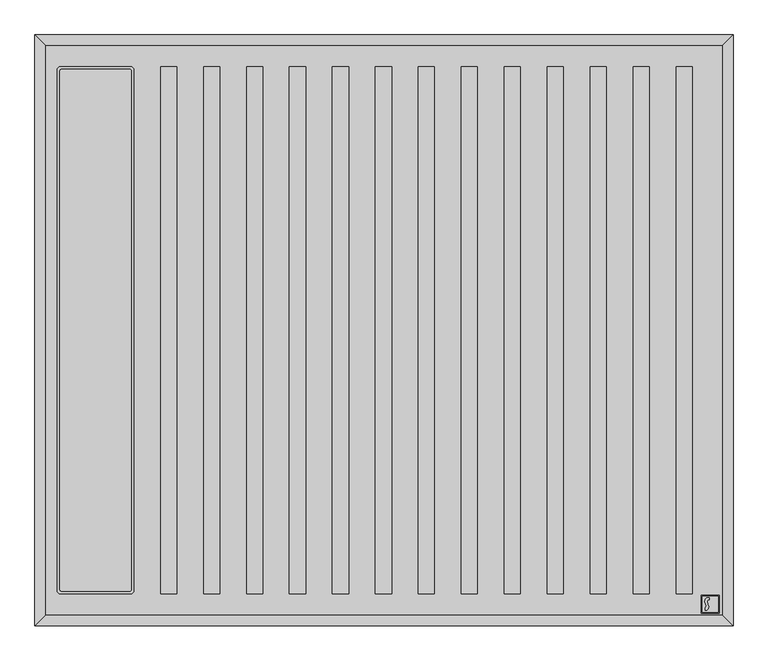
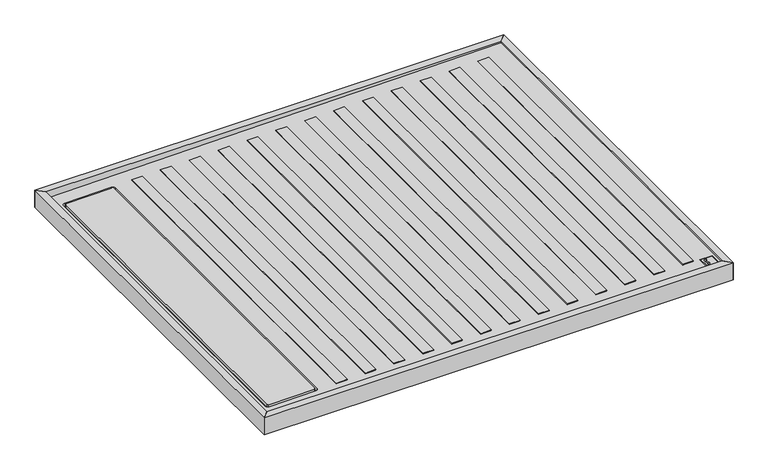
"""IFC4 building model written with IfcOpenShell, lengths in millimetres: flow terminal geometry, Sanitary_Shower-trays_Cosentino_Kador : Kador_130*125."""

from ifc_helpers import new_model, si_unit, point, frame, frame_2d, origin, origin_with_axes, place, context, project, spatial, polyline, circle_curve, ellipse_curve, trimmed, segment, composite_curve, outline, extrude, source, transform, mapped, element, save
from ifc_brep_helpers import plane_surface, cylinder_surface, revolved_surface, advanced_brep


def flow_terminal_b279ac32(model_context):
    return source(origin(), model_context, "Body", "SolidModel", [
        advanced_brep(
        [(-470.5, 482.5, 33.7436921), (-474.0, 486.0, 33.7018727), (-600.0, 486.0, 32.1963775), (-603.5, 482.5, 32.1545582), (-603.5, -482.5, 32.1545582), (-600.0, -486.0, 32.1963775), (-474.0, -486.0, 33.7018727), (-470.5, -482.5, 33.7436921), (-474.0, 486.0, 24.9415704), (-470.5, 482.5, 24.9415704), (-470.5, -482.5, 24.9415704), (-474.0, -486.0, 24.9415704), (-600.0, -486.0, 24.9415704), (-603.5, -482.5, 24.9415704), (-603.5, 482.5, 24.9415704), (-600.0, 486.0, 24.9415704)],
        [
            (0, 1, ellipse_curve(frame((-474.0, 482.5, 33.7018727), z_axis=(-0.011947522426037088, 0.0, 0.999928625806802), x_axis=(0.999928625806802, 0.0, 0.011947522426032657)), 3.5002498, 3.5)),
            (1, 2),
            (2, 3, ellipse_curve(frame((-600.0, 482.5, 32.1963775), z_axis=(-0.011947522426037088, 0.0, 0.999928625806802), x_axis=(0.999928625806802, 0.0, 0.011947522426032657)), 3.5002498, 3.5)),
            (3, 4),
            (4, 5, ellipse_curve(frame((-600.0, -482.5, 32.1963775), z_axis=(-0.011947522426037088, 0.0, 0.999928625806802), x_axis=(0.999928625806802, 0.0, 0.011947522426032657)), 3.5002498, 3.5)),
            (5, 6),
            (6, 7, ellipse_curve(frame((-474.0, -482.5, 33.7018727), z_axis=(-0.011947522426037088, 0.0, 0.999928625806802), x_axis=(0.999928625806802, 0.0, 0.011947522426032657)), 3.5002498, 3.5)),
            (7, 0),
            (8, 9, circle_curve(frame((-474.0, 482.5, 24.9415704), z_axis=(0.0, 0.0, -1.0), x_axis=(1.0, 0.0, 0.0)), 3.5)),
            (9, 10),
            (10, 11, circle_curve(frame((-474.0, -482.5, 24.9415704), z_axis=(0.0, 0.0, -1.0), x_axis=(1.0, 0.0, 0.0)), 3.5)),
            (11, 12),
            (12, 13, circle_curve(frame((-600.0, -482.5, 24.9415704), z_axis=(0.0, 0.0, -1.0), x_axis=(1.0, 0.0, 0.0)), 3.5)),
            (13, 14),
            (14, 15, circle_curve(frame((-600.0, 482.5, 24.9415704), z_axis=(0.0, 0.0, -1.0), x_axis=(1.0, 0.0, 0.0)), 3.5)),
            (15, 8),
            (9, 0),
            (7, 10),
            (11, 6),
            (5, 12),
            (13, 4),
            (3, 14),
            (15, 2),
            (1, 8),
        ],
        [
            plane_surface(frame((631.0, -531.0, 46.9048274), z_axis=(-0.011947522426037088, 0.0, 0.999928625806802), x_axis=(0.0, 1.0, 0.0))),
            plane_surface(frame((-470.5, 482.5, 24.9415704), z_axis=(0.0, 0.0, -1.0), x_axis=(0.0, 1.0, 0.0))),
            plane_surface(frame((-470.5, 482.5, 45.0), z_axis=(1.0, 0.0, 0.0), x_axis=(0.0, 0.0, -1.0))),
            plane_surface(frame((-474.0, -486.0, 45.0), z_axis=(0.0, -1.0, 0.0), x_axis=(0.0, 0.0, -1.0))),
            plane_surface(frame((-603.5, -482.5, 45.0), z_axis=(-1.0, 0.0, 0.0), x_axis=(0.0, 0.0, -1.0))),
            plane_surface(frame((-600.0, 486.0, 45.0), z_axis=(0.0, 1.0, 0.0), x_axis=(0.0, 0.0, -1.0))),
            cylinder_surface(frame((-474.0, 482.5, 24.9415704), z_axis=(0.0, 0.0, 1.0), x_axis=(1.0, 0.0, 0.0)), 3.5),
            cylinder_surface(frame((-474.0, -482.5, 24.9415704), z_axis=(0.0, 0.0, 1.0), x_axis=(1.0, 0.0, 0.0)), 3.5),
            cylinder_surface(frame((-600.0, -482.5, 24.9415704), z_axis=(0.0, 0.0, 1.0), x_axis=(1.0, 0.0, 0.0)), 3.5),
            cylinder_surface(frame((-600.0, 482.5, 24.9415704), z_axis=(0.0, 0.0, 1.0), x_axis=(1.0, 0.0, 0.0)), 3.5),
        ],
        [
            (0, [[1, 2, 3, 4, 5, 6, 7, 8]]),
            (1, [[9, 10, 11, 12, 13, 14, 15, 16]]),
            (2, [[17, -8, 18, -10]]),
            (3, [[19, -6, 20, -12]]),
            (4, [[21, -4, 22, -14]]),
            (5, [[23, -2, 24, -16]]),
            (6, [[-24, -1, -17, -9]]),
            (7, [[-18, -7, -19, -11]]),
            (8, [[-20, -5, -21, -13]]),
            (9, [[-22, -3, -23, -15]]),
        ],
    ),
        extrude(outline(polyline([(10.0, -416.0), (10.0, -386.0), (34.7533298, -386.0), (34.3948785, -416.0), (10.0, -416.0)])), frame((0.0, -491.0, 0.0), z_axis=(0.0, 1.0, 0.0), x_axis=(0.0, 0.0, 1.0)), (0.0, 0.0, 1.0), 982.0),
        extrude(outline(polyline([(10.0, -336.0), (10.0, -306.0), (35.7091998, -306.0), (35.3507485, -336.0), (10.0, -336.0)])), frame((0.0, -491.0, 0.0), z_axis=(0.0, 1.0, 0.0), x_axis=(0.0, 0.0, 1.0)), (0.0, 0.0, 1.0), 982.0),
        extrude(outline(polyline([(10.0, -256.0), (10.0, -226.0), (36.6650698, -226.0), (36.3066185, -256.0), (10.0, -256.0)])), frame((0.0, -491.0, 0.0), z_axis=(0.0, 1.0, 0.0), x_axis=(0.0, 0.0, 1.0)), (0.0, 0.0, 1.0), 982.0),
        extrude(outline(polyline([(10.0, -176.0), (10.0, -146.0), (37.6209398, -146.0), (37.2624886, -176.0), (10.0, -176.0)])), frame((0.0, -491.0, 0.0), z_axis=(0.0, 1.0, 0.0), x_axis=(0.0, 0.0, 1.0)), (0.0, 0.0, 1.0), 982.0),
        extrude(outline(polyline([(10.0, -96.0), (10.0, -66.0), (38.5768098, -66.0), (38.2183586, -96.0), (10.0, -96.0)])), frame((0.0, -491.0, 0.0), z_axis=(0.0, 1.0, 0.0), x_axis=(0.0, 0.0, 1.0)), (0.0, 0.0, 1.0), 982.0),
        extrude(outline(polyline([(10.0, -16.0), (10.0, 14.0), (39.5326799, 14.0), (39.1742286, -16.0), (10.0, -16.0)])), frame((0.0, -491.0, 0.0), z_axis=(0.0, 1.0, 0.0), x_axis=(0.0, 0.0, 1.0)), (0.0, 0.0, 1.0), 982.0),
        extrude(outline(polyline([(10.0, 64.0), (10.0, 94.0), (40.4885499, 94.0), (40.1300986, 64.0), (10.0, 64.0)])), frame((0.0, -491.0, 0.0), z_axis=(0.0, 1.0, 0.0), x_axis=(0.0, 0.0, 1.0)), (0.0, 0.0, 1.0), 982.0),
        extrude(outline(polyline([(10.0, 144.0), (10.0, 174.0), (41.4444199, 174.0), (41.0859686, 144.0), (10.0, 144.0)])), frame((0.0, -491.0, 0.0), z_axis=(0.0, 1.0, 0.0), x_axis=(0.0, 0.0, 1.0)), (0.0, 0.0, 1.0), 982.0),
        extrude(outline(polyline([(10.0, 224.0), (10.0, 254.0), (42.4002899, 254.0), (42.0418387, 224.0), (10.0, 224.0)])), frame((0.0, -491.0, 0.0), z_axis=(0.0, 1.0, 0.0), x_axis=(0.0, 0.0, 1.0)), (0.0, 0.0, 1.0), 982.0),
        extrude(outline(polyline([(10.0, 304.0), (10.0, 334.0), (43.3561599, 334.0), (42.9977087, 304.0), (10.0, 304.0)])), frame((0.0, -491.0, 0.0), z_axis=(0.0, 1.0, 0.0), x_axis=(0.0, 0.0, 1.0)), (0.0, 0.0, 1.0), 982.0),
        extrude(outline(polyline([(10.0, 384.0), (10.0, 414.0), (44.31203, 414.0), (43.9535787, 384.0), (10.0, 384.0)])), frame((0.0, -491.0, 0.0), z_axis=(0.0, 1.0, 0.0), x_axis=(0.0, 0.0, 1.0)), (0.0, 0.0, 1.0), 982.0),
        extrude(outline(polyline([(10.0, 464.0), (10.0, 494.0), (45.2679, 494.0), (44.9094487, 464.0), (10.0, 464.0)])), frame((0.0, -491.0, 0.0), z_axis=(0.0, 1.0, 0.0), x_axis=(0.0, 0.0, 1.0)), (0.0, 0.0, 1.0), 982.0),
        extrude(outline(polyline([(10.0, 544.0), (10.0, 574.0), (46.22377, 574.0), (45.8653187, 544.0), (10.0, 544.0)])), frame((0.0, -491.0, 0.0), z_axis=(0.0, 1.0, 0.0), x_axis=(0.0, 0.0, 1.0)), (0.0, 0.0, 1.0), 982.0),
        extrude(outline(polyline([(622.4465505, -525.0929987), (592.4465505, -525.0929987), (592.4465505, -495.0929987), (622.4465505, -495.0929987), (622.4465505, -525.0929987)]), holes=[composite_curve([segment(polyline([(604.1850983, -512.8485396), (602.0870301, -505.0184428)]), True, "CONTINUOUS"), segment(trimmed(circle_curve(frame_2d((604.590467, -504.3476489)), 2.5917486), [point((602.0870301, -505.0184428))], [point((604.5568828, -501.7561179))], False, "CARTESIAN"), True, "CONTINUOUS"), segment(polyline([(604.5568828, -501.7561179), (605.5372593, -501.7403535), (605.5372593, -497.7185302), (603.484187, -497.7833239)]), True, "CONTINUOUS"), segment(trimmed(circle_curve(frame_2d((603.9268061, -504.2134148)), 6.4453068), [point((603.484187, -497.7833239))], [point((597.6685309, -505.7548335))], True, "CARTESIAN"), True, "CONTINUOUS"), segment(polyline([(597.6685309, -505.7548335), (599.6348515, -513.0932417)]), True, "CONTINUOUS"), segment(trimmed(circle_curve(frame_2d((596.3194795, -514.019131)), 3.4422322), [point((599.6348515, -513.0932417))], [point((598.2600314, -516.8622316))], False, "CARTESIAN"), True, "CONTINUOUS"), segment(polyline([(598.2600314, -516.8622316), (598.2600314, -521.5318539)]), True, "CONTINUOUS"), segment(trimmed(circle_curve(frame_2d((597.7589199, -514.8267757)), 6.7237776), [point((598.2600314, -521.5318539))], [point((604.1850983, -512.8485396))], True, "CARTESIAN"), True, "CONTINUOUS")], self_intersect=False)]), frame((0.0, 0.0, 30.3616701), z_axis=(0.0, 0.0, 1.0), x_axis=(1.0, 0.0, 0.0)), (0.0, 0.0, 1.0), 14.6383299),
        extrude(outline(polyline([(624.4465505, -527.0929987), (590.4465505, -527.0929987), (590.4465505, -493.0929987), (624.4465505, -493.0929987), (624.4465505, -527.0929987)]), holes=[polyline([(592.4465505, -525.0929987), (622.4465505, -525.0929987), (622.4465505, -495.0929987), (592.4465505, -495.0929987), (592.4465505, -525.0929987)])]), frame((0.0, 0.0, 30.3616701), z_axis=(0.0, 0.0, 1.0), x_axis=(1.0, 0.0, 0.0)), (0.0, 0.0, 1.0), 14.6383299),
        extrude(outline(composite_curve([segment(trimmed(circle_curve(frame_2d((597.7589199, -514.8267757)), 6.7237776), [point((604.1850983, -512.8485396))], [point((598.2600314, -521.5318539))], False, "CARTESIAN"), True, "CONTINUOUS"), segment(polyline([(598.2600314, -521.5318539), (598.2600314, -516.8622316)]), True, "CONTINUOUS"), segment(trimmed(circle_curve(frame_2d((596.3194795, -514.019131)), 3.4422322), [point((598.2600314, -516.8622316))], [point((599.6348515, -513.0932417))], True, "CARTESIAN"), True, "CONTINUOUS"), segment(polyline([(599.6348515, -513.0932417), (597.6685309, -505.7548335)]), True, "CONTINUOUS"), segment(trimmed(circle_curve(frame_2d((603.9268061, -504.2134148)), 6.4453068), [point((597.6685309, -505.7548335))], [point((603.484187, -497.7833239))], False, "CARTESIAN"), True, "CONTINUOUS"), segment(polyline([(603.484187, -497.7833239), (605.5372593, -497.7185302), (605.5372593, -501.7403535), (604.5568828, -501.7561179)]), True, "CONTINUOUS"), segment(trimmed(circle_curve(frame_2d((604.590467, -504.3476489)), 2.5917486), [point((604.5568828, -501.7561179))], [point((602.0870301, -505.0184428))], True, "CARTESIAN"), True, "CONTINUOUS"), segment(polyline([(602.0870301, -505.0184428), (604.1850983, -512.8485396)]), True, "CONTINUOUS")], self_intersect=False)), frame((0.0, 0.0, 30.3616701), z_axis=(0.0, 0.0, 1.0), x_axis=(1.0, 0.0, 0.0)), (0.0, 0.0, 1.0), 14.6383299),
        advanced_brep(
        [(-631.0, 531.0, 29.925985), (631.0, 531.0, 45.0048345), (631.0, 531.0, 23.0), (-620.0, 531.0, 10.0), (-631.0, 531.0, 10.0), (-631.0, -531.0, 29.925985), (-631.0, -531.0, 10.0), (-620.0, -531.0, 10.0), (631.0, -531.0, 23.0), (631.0, -531.0, 45.0048345), (-575.000878, 0.0, 10.4676168), (-485.000878, 0.0, 11.4028686), (-472.500878, 0.0, 22.0), (-587.500878, 0.0, 22.0), (-583.2118642, 0.0, 20.0), (-476.7898918, 0.0, 20.0), (-575.000878, 0.0, 20.0), (-485.000878, 0.0, 20.0), (-608.5, 484.5, 30.1948234), (-602.0, 491.0, 30.2724879), (-472.0, 491.0, 31.8257766), (-465.5, 484.5, 31.9034411), (-465.5, -484.5, 31.9034411), (-472.0, -491.0, 31.8257766), (-602.0, -491.0, 30.2724879), (-608.5, -484.5, 30.1948234), (-608.5, -484.5, 22.0), (-602.0, -491.0, 22.0), (-472.0, -491.0, 22.0), (-465.5, -484.5, 22.0), (-465.5, 484.5, 22.0), (-472.0, 491.0, 22.0), (-602.0, 491.0, 22.0), (-608.5, 484.5, 22.0)],
        [
            (0, 1),
            (1, 2),
            (2, 3),
            (3, 4),
            (4, 0),
            (5, 6),
            (6, 7),
            (7, 8),
            (8, 9),
            (9, 5),
            (4, 6),
            (5, 0),
            (3, 7),
            (2, 8),
            (10, 11, ellipse_curve(frame((-530.000878, 0.0, 10.9352427), z_axis=(-0.01039112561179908, 0.0, 0.999946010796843), x_axis=(0.9999460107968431, 0.0, 0.010391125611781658)), 45.0024296, 45.0)),
            (11, 10, ellipse_curve(frame((-530.000878, 0.0, 10.9352427), z_axis=(-0.01039112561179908, 0.0, 0.999946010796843), x_axis=(0.9999460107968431, 0.0, 0.010391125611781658)), 45.0024296, 45.0)),
            (12, 13, circle_curve(frame((-530.000878, 0.0, 22.0), z_axis=(0.0, 0.0, 1.0), x_axis=(-1.0, 0.0, 0.0)), 57.5)),
            (13, 14),
            (14, 15, circle_curve(frame((-530.000878, 0.0, 20.0), z_axis=(0.0, 0.0, -1.0), x_axis=(-1.0, 0.0, 0.0)), 53.2109862)),
            (15, 12),
            (15, 14, circle_curve(frame((-530.000878, 0.0, 20.0), z_axis=(0.0, 0.0, -1.0), x_axis=(-1.0, 0.0, 0.0)), 53.2109862)),
            (13, 12, circle_curve(frame((-530.000878, 0.0, 22.0), z_axis=(0.0, 0.0, 1.0), x_axis=(-1.0, 0.0, 0.0)), 57.5)),
            (14, 16),
            (16, 17, circle_curve(frame((-530.000878, 0.0, 20.0), z_axis=(0.0, 0.0, -1.0), x_axis=(-1.0, 0.0, 0.0)), 45.0)),
            (17, 15),
            (17, 16, circle_curve(frame((-530.000878, 0.0, 20.0), z_axis=(0.0, 0.0, -1.0), x_axis=(-1.0, 0.0, 0.0)), 45.0)),
            (16, 10),
            (11, 17),
            (1, 9),
            (18, 19, ellipse_curve(frame((-602.0, 484.5, 30.2724879), z_axis=(0.011947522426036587, 0.0, -0.999928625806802), x_axis=(0.9999286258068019, 0.0, 0.011947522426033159)), 6.500464, 6.5)),
            (19, 20),
            (20, 21, ellipse_curve(frame((-472.0, 484.5, 31.8257766), z_axis=(0.011947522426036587, 0.0, -0.999928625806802), x_axis=(0.9999286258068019, 0.0, 0.011947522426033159)), 6.500464, 6.5)),
            (21, 22),
            (22, 23, ellipse_curve(frame((-472.0, -484.5, 31.8257766), z_axis=(0.011947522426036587, 0.0, -0.999928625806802), x_axis=(0.9999286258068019, 0.0, 0.011947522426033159)), 6.500464, 6.5)),
            (23, 24),
            (24, 25, ellipse_curve(frame((-602.0, -484.5, 30.2724879), z_axis=(0.011947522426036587, 0.0, -0.999928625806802), x_axis=(0.9999286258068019, 0.0, 0.011947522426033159)), 6.500464, 6.5)),
            (25, 18),
            (26, 27, circle_curve(frame((-602.0, -484.5, 22.0), z_axis=(0.0, 0.0, 1.0), x_axis=(1.0, 0.0, 0.0)), 6.5)),
            (27, 28),
            (28, 29, circle_curve(frame((-472.0, -484.5, 22.0), z_axis=(0.0, 0.0, 1.0), x_axis=(1.0, 0.0, 0.0)), 6.5)),
            (29, 30),
            (30, 31, circle_curve(frame((-472.0, 484.5, 22.0), z_axis=(0.0, 0.0, 1.0), x_axis=(1.0, 0.0, 0.0)), 6.5)),
            (31, 32),
            (32, 33, circle_curve(frame((-602.0, 484.5, 22.0), z_axis=(0.0, 0.0, 1.0), x_axis=(1.0, 0.0, 0.0)), 6.5)),
            (33, 26),
            (33, 18),
            (25, 26),
            (32, 19),
            (31, 20),
            (30, 21),
            (29, 22),
            (28, 23),
            (27, 24),
        ],
        [
            plane_surface(frame((-631.0, 531.0, 10.0), z_axis=(0.0, 1.0, 0.0), x_axis=(0.0, 0.0, -1.0))),
            plane_surface(frame((-631.0, -531.0, 10.0), z_axis=(0.0, -1.0, 0.0), x_axis=(0.0, 0.0, 1.0))),
            plane_surface(frame((-631.0, 531.0, 29.925985), z_axis=(-1.0, 0.0, 0.0), x_axis=(0.0, -1.0, 0.0))),
            plane_surface(frame((-631.0, 531.0, 10.0), z_axis=(0.0, 0.0, -1.0), x_axis=(0.0, -1.0, 0.0))),
            plane_surface(frame((-620.0, 531.0, 10.0), z_axis=(0.01039112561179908, 0.0, -0.999946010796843), x_axis=(0.0, -1.0, 0.0))),
            revolved_surface(polyline([(-587.500878, 0.0, 22.0), (-583.2118642, 0.0, 20.0)]), (-530.000878, 0.0, -304.8), (0.0, 0.0, 1.0)),
            plane_surface(frame((-530.000878, 0.0, 20.0), z_axis=(0.0, 0.0, 1.0), x_axis=(-1.0, 0.0, 0.0))),
            revolved_surface(polyline([(-575.000878, 0.0, 20.0), (-575.000878, 0.0, 10.467616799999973)]), (-530.000878, 0.0, -304.8), (0.0, 0.0, 1.0)),
            plane_surface(frame((631.0, 531.0, 23.0), z_axis=(1.0, 0.0, 0.0), x_axis=(0.0, -1.0, 0.0))),
            plane_surface(frame((631.0, 531.0, 45.0048345), z_axis=(-0.011947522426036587, 0.0, 0.999928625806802), x_axis=(0.0, -1.0, 0.0))),
            plane_surface(frame((-608.5, -484.5, 22.0), z_axis=(0.0, 0.0, 1.0), x_axis=(0.0, -1.0, 0.0))),
            plane_surface(frame((-608.5, -484.5, 50.0), z_axis=(1.0, 0.0, 0.0), x_axis=(0.0, 0.0, -1.0))),
            revolved_surface(polyline([(-595.5, 484.5, 30.350152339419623), (-595.5, 484.5, 22.0)]), (-602.0, 484.5, 22.0), (0.0, 0.0, 1.0)),
            plane_surface(frame((-602.0, 491.0, 50.0), z_axis=(0.0, -1.0, 0.0), x_axis=(0.0, 0.0, -1.0))),
            revolved_surface(polyline([(-465.5, 484.5, 31.9034411), (-465.5, 484.5, 22.0)]), (-472.0, 484.5, 22.0), (0.0, 0.0, 1.0)),
            plane_surface(frame((-465.5, 484.5, 50.0), z_axis=(-1.0, 0.0, 0.0), x_axis=(0.0, 0.0, -1.0))),
            revolved_surface(polyline([(-465.5, -484.5, 31.9034411), (-465.5, -484.5, 22.0)]), (-472.0, -484.5, 22.0), (0.0, 0.0, 1.0)),
            plane_surface(frame((-472.0, -491.0, 50.0), z_axis=(0.0, 1.0, 0.0), x_axis=(0.0, 0.0, -1.0))),
            revolved_surface(polyline([(-595.5, -484.5, 30.350152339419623), (-595.5, -484.5, 22.0)]), (-602.0, -484.5, 22.0), (0.0, 0.0, 1.0)),
        ],
        [
            (0, [[1, 2, 3, 4, 5]]),
            (1, [[6, 7, 8, 9, 10]]),
            (2, [[11, -6, 12, -5]]),
            (3, [[13, -7, -11, -4]]),
            (4, [[14, -8, -13, -3], [15, 16]]),
            (5, [[17, 18, 19, 20]]),
            (5, [[21, -18, 22, -20]]),
            (6, [[23, 24, 25, -19]]),
            (6, [[-25, 26, -23, -21]]),
            (7, [[27, -16, 28, -24]]),
            (7, [[-28, -15, -27, -26]]),
            (8, [[29, -9, -14, -2]]),
            (9, [[-12, -10, -29, -1], [30, 31, 32, 33, 34, 35, 36, 37]]),
            (10, [[38, 39, 40, 41, 42, 43, 44, 45], [-22, -17]]),
            (11, [[46, -37, 47, -45]]),
            (12, [[48, -30, -46, -44]]),
            (13, [[49, -31, -48, -43]]),
            (14, [[50, -32, -49, -42]]),
            (15, [[51, -33, -50, -41]]),
            (16, [[52, -34, -51, -40]]),
            (17, [[53, -35, -52, -39]]),
            (18, [[-47, -36, -53, -38]]),
        ],
    ),
        extrude(outline(polyline([(-650.0, 550.0), (-631.0, 531.0), (-631.0, -531.0), (-650.0, -550.0), (-650.0, 550.0)])), origin_with_axes(), (0.0, 0.0, 1.0), 50.0),
        extrude(outline(polyline([(650.0, 550.0), (650.0, -550.0), (631.0, -531.0), (631.0, 531.0), (650.0, 550.0)])), origin_with_axes(), (0.0, 0.0, 1.0), 50.0),
        extrude(outline(polyline([(650.0, -550.0), (-650.0, -550.0), (-631.0, -531.0), (631.0, -531.0), (650.0, -550.0)])), origin_with_axes(), (0.0, 0.0, 1.0), 50.0),
        extrude(outline(polyline([(650.0, 550.0), (631.0, 531.0), (-631.0, 531.0), (-650.0, 550.0), (650.0, 550.0)])), origin_with_axes(), (0.0, 0.0, 1.0), 50.0),
    ])


if __name__ == "__main__":
    model = new_model("IFC4")
    model_context = context("Model", 3, world=origin())
    ifc_project = project(units=[si_unit("LENGTHUNIT", "METRE", prefix="MILLI")], contexts=[model_context])
    site = spatial("IfcSite", under=ifc_project)
    building = spatial("IfcBuilding", under=site)
    placement = place(None, origin())
    flow_terminal_shape = flow_terminal_b279ac32(model_context)
    element("IfcFlowTerminal", 1, ObjectType="Sanitary_Shower-trays_Cosentino_Kador : Kador_130*125", at=placement, inside=building, context=model_context, shape_type="MappedRepresentation", body=[
        mapped(flow_terminal_shape, transform((0.0, 0.0, 0.0), x_axis=(1.0, 0.0, 0.0), y_axis=(0.0, 1.0, 0.0), z_axis=(0.0, 0.0, 1.0))),
    ])
    save(model, "model.ifc")
